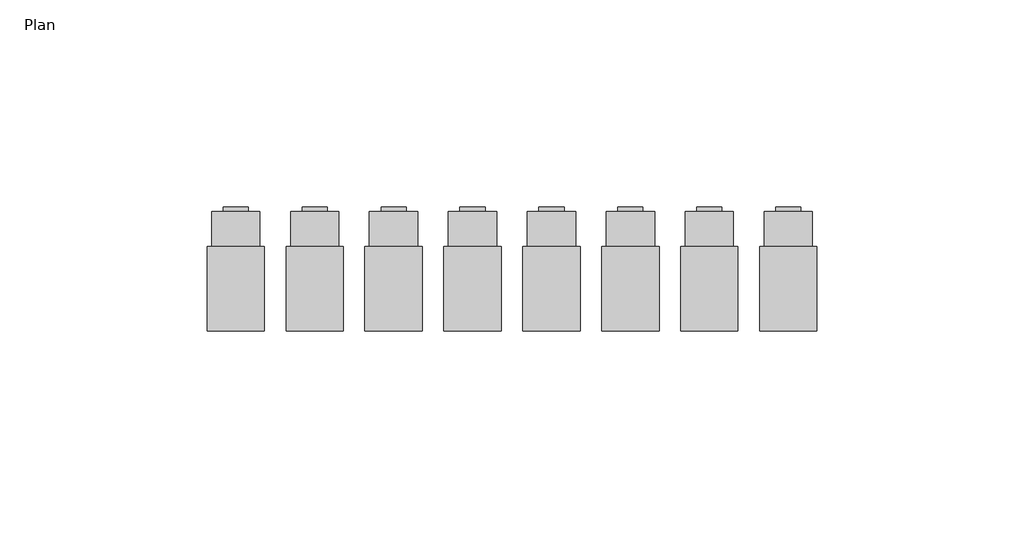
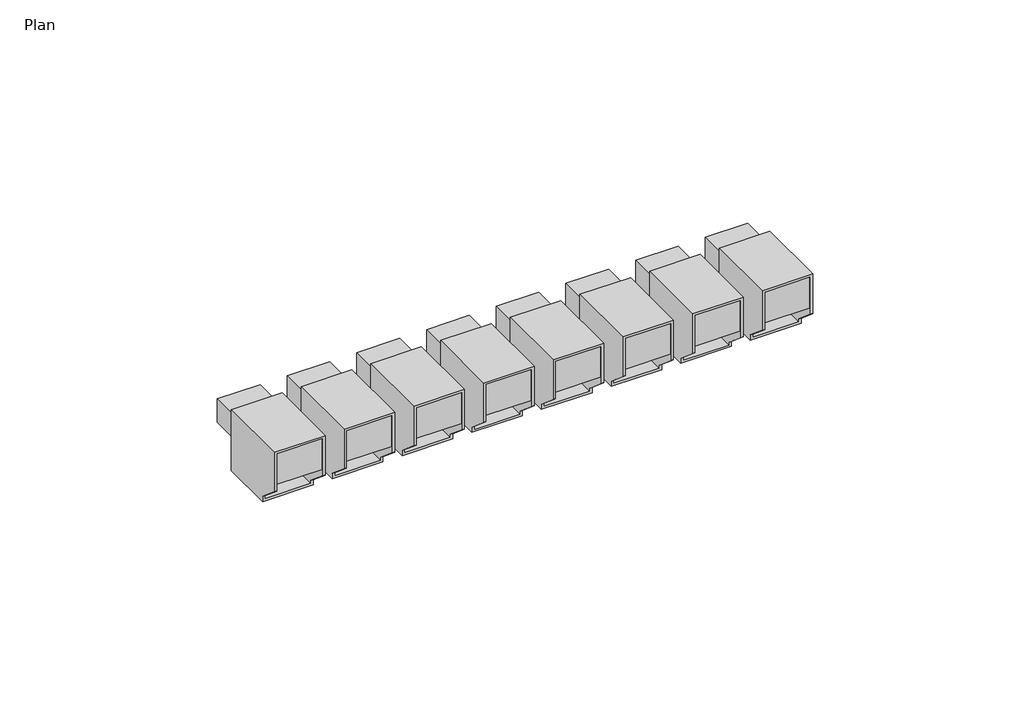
# One storey: 8 electric appliances.
"""IFC4 building model written with IfcOpenShell, lengths in millimetres."""

from ifc_helpers import new_model, si_unit, origin, place, context, project, spatial, transform, mapped, element, save
from components import electric_appliance_d75b9152

model = new_model("IFC4")

# Units and contexts
model_context = context("Model", 3, world=origin())
ifc_project = project(units=[si_unit("LENGTHUNIT", "METRE", prefix="MILLI")], contexts=[model_context])

# Site, building, storey
site = spatial("IfcSite", under=ifc_project)
building = spatial("IfcBuilding", under=site)
storey = spatial("IfcBuildingStorey", under=building, Name="Plan", Elevation=0.0)

# Electric appliances
placement = place(None, origin())
electric_appliance_shape = electric_appliance_d75b9152(model_context)
element("IfcElectricAppliance", 1, ObjectType="Data_Device-Network-Leviton-Port_Blocker : Port Blocker, Color Black", at=placement, inside=storey, context=model_context, shape_type="MappedRepresentation", body=[
    mapped(electric_appliance_shape, transform((2371.5329608, -780.1325522, 308.1801487), x_axis=(1.0, 0.0, 0.0), y_axis=(0.0, 0.0, 1.0), z_axis=(0.0, -1.0, 0.0))),
])
element("IfcElectricAppliance", 2, ObjectType="Data_Device-Network-Leviton-Port_Blocker : Port Blocker, Color Blue", at=placement, inside=storey, context=model_context, shape_type="MappedRepresentation", body=[
    mapped(electric_appliance_shape, transform((2390.5829608, -780.1325522, 308.1801487), x_axis=(1.0, 0.0, 0.0), y_axis=(0.0, 0.0, 1.0), z_axis=(0.0, -1.0, 0.0))),
])
element("IfcElectricAppliance", 3, ObjectType="Data_Device-Network-Leviton-Port_Blocker : Port Blocker, Color Green", at=placement, inside=storey, context=model_context, shape_type="MappedRepresentation", body=[
    mapped(electric_appliance_shape, transform((2409.6329608, -780.1325522, 308.1801487), x_axis=(1.0, 0.0, 0.0), y_axis=(0.0, 0.0, 1.0), z_axis=(0.0, -1.0, 0.0))),
])
element("IfcElectricAppliance", 4, ObjectType="Data_Device-Network-Leviton-Port_Blocker : Port Blocker, Color Orange", at=placement, inside=storey, context=model_context, shape_type="MappedRepresentation", body=[
    mapped(electric_appliance_shape, transform((2428.6829608, -780.1325522, 308.1801487), x_axis=(1.0, 0.0, 0.0), y_axis=(0.0, 0.0, 1.0), z_axis=(0.0, -1.0, 0.0))),
])
element("IfcElectricAppliance", 5, ObjectType="Data_Device-Network-Leviton-Port_Blocker : Port Blocker, Color Purple", at=placement, inside=storey, context=model_context, shape_type="MappedRepresentation", body=[
    mapped(electric_appliance_shape, transform((2447.7329608, -780.1325522, 308.1801487), x_axis=(1.0, 0.0, 0.0), y_axis=(0.0, 0.0, 1.0), z_axis=(0.0, -1.0, 0.0))),
])
element("IfcElectricAppliance", 6, ObjectType="Data_Device-Network-Leviton-Port_Blocker : Port Blocker, Color Red", at=placement, inside=storey, context=model_context, shape_type="MappedRepresentation", body=[
    mapped(electric_appliance_shape, transform((2466.7829608, -780.1325522, 308.1801487), x_axis=(1.0, 0.0, 0.0), y_axis=(0.0, 0.0, 1.0), z_axis=(0.0, -1.0, 0.0))),
])
element("IfcElectricAppliance", 7, ObjectType="Data_Device-Network-Leviton-Port_Blocker : Port Blocker, Color White", at=placement, inside=storey, context=model_context, shape_type="MappedRepresentation", body=[
    mapped(electric_appliance_shape, transform((2485.8329608, -780.1325522, 308.1801487), x_axis=(1.0, 0.0, 0.0), y_axis=(0.0, 0.0, 1.0), z_axis=(0.0, -1.0, 0.0))),
])
element("IfcElectricAppliance", 8, ObjectType="Data_Device-Network-Leviton-Port_Blocker : Port Blocker, Color Yellow", at=placement, inside=storey, context=model_context, shape_type="MappedRepresentation", body=[
    mapped(electric_appliance_shape, transform((2504.8829608, -780.1325522, 308.1801487), x_axis=(1.0, 0.0, 0.0), y_axis=(0.0, 0.0, 1.0), z_axis=(0.0, -1.0, 0.0))),
])

save(model, "model.ifc")
